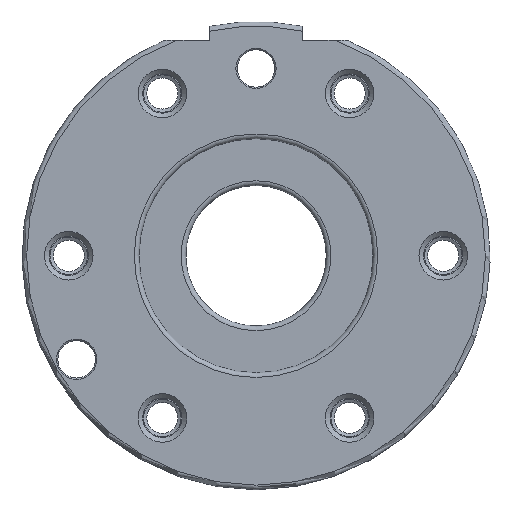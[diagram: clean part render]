
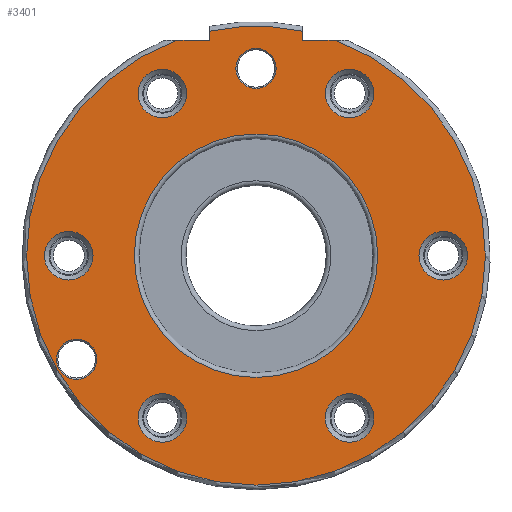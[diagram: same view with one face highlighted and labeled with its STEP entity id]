
A CAD part, front view. The second image highlights one B-rep face of the part: STEP entity #3401.
In plain terms, the highlighted planar face has unit normal (0, -1, 0).
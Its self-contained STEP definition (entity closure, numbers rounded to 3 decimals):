
#98=FACE_BOUND('',#672,.T.);
#99=FACE_BOUND('',#673,.T.);
#100=FACE_BOUND('',#674,.T.);
#101=FACE_BOUND('',#675,.T.);
#102=FACE_BOUND('',#676,.T.);
#103=FACE_BOUND('',#677,.T.);
#104=FACE_BOUND('',#678,.T.);
#105=FACE_BOUND('',#679,.T.);
#106=FACE_BOUND('',#680,.T.);
#299=CIRCLE('',#3720,4.3);
#301=CIRCLE('',#3723,49.);
#302=CIRCLE('',#3724,49.);
#303=CIRCLE('',#3725,4.3);
#304=CIRCLE('',#3726,5.188);
#305=CIRCLE('',#3727,5.188);
#306=CIRCLE('',#3728,5.188);
#307=CIRCLE('',#3729,26.);
#308=CIRCLE('',#3730,5.188);
#309=CIRCLE('',#3731,5.188);
#310=CIRCLE('',#3732,5.188);
#505=FACE_OUTER_BOUND('',#671,.T.);
#671=EDGE_LOOP('',(#2536,#2537,#2538,#2539,#2540,#2541));
#672=EDGE_LOOP('',(#2542));
#673=EDGE_LOOP('',(#2543));
#674=EDGE_LOOP('',(#2544));
#675=EDGE_LOOP('',(#2545));
#676=EDGE_LOOP('',(#2546));
#677=EDGE_LOOP('',(#2547));
#678=EDGE_LOOP('',(#2548));
#679=EDGE_LOOP('',(#2549));
#680=EDGE_LOOP('',(#2550));
#980=LINE('',#5579,#1159);
#981=LINE('',#5583,#1160);
#982=LINE('',#5585,#1161);
#983=LINE('',#5588,#1162);
#1159=VECTOR('',#4431,10.);
#1160=VECTOR('',#4434,10.);
#1161=VECTOR('',#4435,10.);
#1162=VECTOR('',#4438,10.);
#1449=VERTEX_POINT('',#5571);
#1451=VERTEX_POINT('',#5577);
#1452=VERTEX_POINT('',#5578);
#1453=VERTEX_POINT('',#5580);
#1454=VERTEX_POINT('',#5582);
#1455=VERTEX_POINT('',#5584);
#1456=VERTEX_POINT('',#5586);
#1457=VERTEX_POINT('',#5589);
#1458=VERTEX_POINT('',#5591);
#1459=VERTEX_POINT('',#5593);
#1460=VERTEX_POINT('',#5595);
#1461=VERTEX_POINT('',#5597);
#1462=VERTEX_POINT('',#5599);
#1463=VERTEX_POINT('',#5601);
#1464=VERTEX_POINT('',#5603);
#1885=EDGE_CURVE('',#1449,#1449,#299,.T.);
#1888=EDGE_CURVE('',#1451,#1452,#980,.T.);
#1889=EDGE_CURVE('',#1453,#1452,#301,.T.);
#1890=EDGE_CURVE('',#1453,#1454,#981,.T.);
#1891=EDGE_CURVE('',#1454,#1455,#982,.T.);
#1892=EDGE_CURVE('',#1456,#1455,#302,.T.);
#1893=EDGE_CURVE('',#1456,#1451,#983,.T.);
#1894=EDGE_CURVE('',#1457,#1457,#303,.T.);
#1895=EDGE_CURVE('',#1458,#1458,#304,.T.);
#1896=EDGE_CURVE('',#1459,#1459,#305,.T.);
#1897=EDGE_CURVE('',#1460,#1460,#306,.T.);
#1898=EDGE_CURVE('',#1461,#1461,#307,.T.);
#1899=EDGE_CURVE('',#1462,#1462,#308,.T.);
#1900=EDGE_CURVE('',#1463,#1463,#309,.T.);
#1901=EDGE_CURVE('',#1464,#1464,#310,.T.);
#2536=ORIENTED_EDGE('',*,*,#1888,.T.);
#2537=ORIENTED_EDGE('',*,*,#1889,.F.);
#2538=ORIENTED_EDGE('',*,*,#1890,.T.);
#2539=ORIENTED_EDGE('',*,*,#1891,.T.);
#2540=ORIENTED_EDGE('',*,*,#1892,.F.);
#2541=ORIENTED_EDGE('',*,*,#1893,.T.);
#2542=ORIENTED_EDGE('',*,*,#1894,.F.);
#2543=ORIENTED_EDGE('',*,*,#1895,.F.);
#2544=ORIENTED_EDGE('',*,*,#1896,.F.);
#2545=ORIENTED_EDGE('',*,*,#1897,.F.);
#2546=ORIENTED_EDGE('',*,*,#1898,.T.);
#2547=ORIENTED_EDGE('',*,*,#1899,.F.);
#2548=ORIENTED_EDGE('',*,*,#1900,.F.);
#2549=ORIENTED_EDGE('',*,*,#1901,.F.);
#2550=ORIENTED_EDGE('',*,*,#1885,.F.);
#3144=PLANE('',#3722);
#3401=ADVANCED_FACE('',(#505,#98,#99,#100,#101,#102,#103,#104,#105,#106),
#3144,.T.);
#3720=AXIS2_PLACEMENT_3D('',#5572,#4424,#4425);
#3722=AXIS2_PLACEMENT_3D('',#5576,#4429,#4430);
#3723=AXIS2_PLACEMENT_3D('',#5581,#4432,#4433);
#3724=AXIS2_PLACEMENT_3D('',#5587,#4436,#4437);
#3725=AXIS2_PLACEMENT_3D('',#5590,#4439,#4440);
#3726=AXIS2_PLACEMENT_3D('',#5592,#4441,#4442);
#3727=AXIS2_PLACEMENT_3D('',#5594,#4443,#4444);
#3728=AXIS2_PLACEMENT_3D('',#5596,#4445,#4446);
#3729=AXIS2_PLACEMENT_3D('',#5598,#4447,#4448);
#3730=AXIS2_PLACEMENT_3D('',#5600,#4449,#4450);
#3731=AXIS2_PLACEMENT_3D('',#5602,#4451,#4452);
#3732=AXIS2_PLACEMENT_3D('',#5604,#4453,#4454);
#4424=DIRECTION('center_axis',(0.,-1.,0.));
#4425=DIRECTION('ref_axis',(1.,0.,0.));
#4429=DIRECTION('center_axis',(0.,-1.,0.));
#4430=DIRECTION('ref_axis',(0.,0.,-1.));
#4431=DIRECTION('',(0.,0.,1.));
#4432=DIRECTION('center_axis',(0.,1.,0.));
#4433=DIRECTION('ref_axis',(1.,0.,0.));
#4434=DIRECTION('',(0.,0.,-1.));
#4435=DIRECTION('',(-1.,0.,0.));
#4436=DIRECTION('center_axis',(0.,1.,0.));
#4437=DIRECTION('ref_axis',(1.,0.,0.));
#4438=DIRECTION('',(-1.,0.,0.));
#4439=DIRECTION('center_axis',(0.,-1.,0.));
#4440=DIRECTION('ref_axis',(1.,0.,0.));
#4441=DIRECTION('center_axis',(0.,-1.,0.));
#4442=DIRECTION('ref_axis',(1.,0.,0.));
#4443=DIRECTION('center_axis',(0.,-1.,0.));
#4444=DIRECTION('ref_axis',(1.,0.,0.));
#4445=DIRECTION('center_axis',(0.,-1.,0.));
#4446=DIRECTION('ref_axis',(1.,0.,0.));
#4447=DIRECTION('center_axis',(0.,1.,0.));
#4448=DIRECTION('ref_axis',(1.,0.,0.));
#4449=DIRECTION('center_axis',(0.,-1.,0.));
#4450=DIRECTION('ref_axis',(1.,0.,0.));
#4451=DIRECTION('center_axis',(0.,-1.,0.));
#4452=DIRECTION('ref_axis',(1.,0.,0.));
#4453=DIRECTION('center_axis',(0.,-1.,0.));
#4454=DIRECTION('ref_axis',(1.,0.,0.));
#5571=CARTESIAN_POINT('',(-42.622,0.,-22.125));
#5572=CARTESIAN_POINT('Origin',(-38.322,0.,
-22.125));
#5576=CARTESIAN_POINT('Origin',(-49.,0.,0.));
#5577=CARTESIAN_POINT('',(10.,0.,46.));
#5578=CARTESIAN_POINT('',(10.,0.,47.969));
#5579=CARTESIAN_POINT('',(10.,0.,24.495));
#5580=CARTESIAN_POINT('',(-10.,0.,47.969));
#5581=CARTESIAN_POINT('Origin',(0.,0.,
0.));
#5582=CARTESIAN_POINT('',(-10.,0.,46.));
#5583=CARTESIAN_POINT('',(-10.,0.,23.));
#5584=CARTESIAN_POINT('',(-16.882,0.,46.));
#5585=CARTESIAN_POINT('',(-34.298,0.,46.));
#5586=CARTESIAN_POINT('',(16.882,0.,46.));
#5587=CARTESIAN_POINT('Origin',(0.,0.,
0.));
#5588=CARTESIAN_POINT('',(-19.5,0.,46.));
#5589=CARTESIAN_POINT('',(-4.3,0.,40.));
#5590=CARTESIAN_POINT('Origin',(0.,0.,
40.));
#5591=CARTESIAN_POINT('',(14.812,0.,-34.641));
#5592=CARTESIAN_POINT('Origin',(20.,0.,-34.641));
#5593=CARTESIAN_POINT('',(14.812,0.,34.641));
#5594=CARTESIAN_POINT('Origin',(20.,0.,34.641));
#5595=CARTESIAN_POINT('',(-45.188,0.,0.));
#5596=CARTESIAN_POINT('Origin',(-40.,0.,0.));
#5597=CARTESIAN_POINT('',(0.,0.,-26.));
#5598=CARTESIAN_POINT('Origin',(0.,0.,
0.));
#5599=CARTESIAN_POINT('',(-25.188,0.,34.641));
#5600=CARTESIAN_POINT('Origin',(-20.,0.,34.641));
#5601=CARTESIAN_POINT('',(34.812,0.,0.));
#5602=CARTESIAN_POINT('Origin',(40.,0.,0.));
#5603=CARTESIAN_POINT('',(-25.188,0.,-34.641));
#5604=CARTESIAN_POINT('Origin',(-20.,0.,-34.641));
